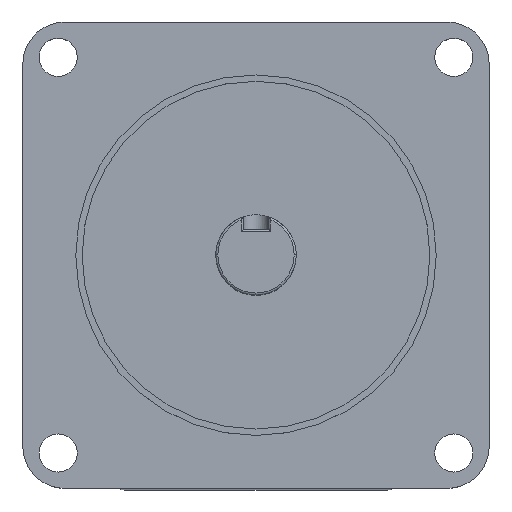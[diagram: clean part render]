
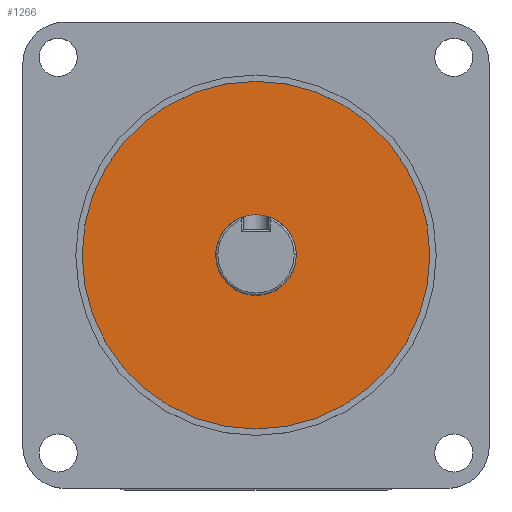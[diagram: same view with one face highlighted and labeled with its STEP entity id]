
A CAD part, top view. The second image highlights one B-rep face of the part: STEP entity #1266.
In plain terms, the highlighted planar face has unit normal (0, 0, 1).
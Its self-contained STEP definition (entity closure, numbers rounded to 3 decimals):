
#39 = FACE_BOUND ( 'NONE', #547, .T. ) ;
#106 = EDGE_LOOP ( 'NONE', ( #2470, #1857 ) ) ;
#230 = CARTESIAN_POINT ( 'NONE',  ( 0., 0., 0. ) ) ;
#297 = CARTESIAN_POINT ( 'NONE',  ( 41., 0., 0. ) ) ;
#326 = CARTESIAN_POINT ( 'NONE',  ( 0., 0., 0. ) ) ;
#345 = PLANE ( 'NONE',  #1002 ) ;
#440 = DIRECTION ( 'NONE',  ( -1., 0., 0. ) ) ;
#529 = DIRECTION ( 'NONE',  ( -1., 0., 0. ) ) ;
#547 = EDGE_LOOP ( 'NONE', ( #600, #771 ) ) ;
#549 = AXIS2_PLACEMENT_3D ( 'NONE', #1898, #678, #2107 ) ;
#562 = VERTEX_POINT ( 'NONE', #2495 ) ;
#600 = ORIENTED_EDGE ( 'NONE', *, *, #1809, .F. ) ;
#641 = CIRCLE ( 'NONE', #549, 41. ) ;
#678 = DIRECTION ( 'NONE',  ( 0., 0., 1. ) ) ;
#771 = ORIENTED_EDGE ( 'NONE', *, *, #2336, .F. ) ;
#854 = CIRCLE ( 'NONE', #1065, 9.5 ) ;
#939 = CARTESIAN_POINT ( 'NONE',  ( 0., 0., 0. ) ) ;
#946 = DIRECTION ( 'NONE',  ( 0., 0., -1. ) ) ;
#984 = CIRCLE ( 'NONE', #2011, 9.5 ) ;
#1002 = AXIS2_PLACEMENT_3D ( 'NONE', #1755, #946, #2388 ) ;
#1065 = AXIS2_PLACEMENT_3D ( 'NONE', #326, #1732, #529 ) ;
#1134 = DIRECTION ( 'NONE',  ( 1., 0., 0. ) ) ;
#1200 = CIRCLE ( 'NONE', #2182, 41. ) ;
#1266 = ADVANCED_FACE ( 'NONE', ( #2219, #39 ), #345, .F. ) ;
#1544 = VERTEX_POINT ( 'NONE', #2375 ) ;
#1598 = VERTEX_POINT ( 'NONE', #2389 ) ;
#1633 = DIRECTION ( 'NONE',  ( 0., 0., 1. ) ) ;
#1732 = DIRECTION ( 'NONE',  ( 0., 0., 1. ) ) ;
#1755 = CARTESIAN_POINT ( 'NONE',  ( -45., -45., 0. ) ) ;
#1809 = EDGE_CURVE ( 'NONE', #562, #1598, #984, .T. ) ;
#1857 = ORIENTED_EDGE ( 'NONE', *, *, #2237, .T. ) ;
#1898 = CARTESIAN_POINT ( 'NONE',  ( 0., 0., 0. ) ) ;
#2011 = AXIS2_PLACEMENT_3D ( 'NONE', #230, #1633, #440 ) ;
#2107 = DIRECTION ( 'NONE',  ( 1., 0., 0. ) ) ;
#2182 = AXIS2_PLACEMENT_3D ( 'NONE', #939, #2379, #1134 ) ;
#2219 = FACE_OUTER_BOUND ( 'NONE', #106, .T. ) ;
#2237 = EDGE_CURVE ( 'NONE', #2305, #1544, #641, .T. ) ;
#2305 = VERTEX_POINT ( 'NONE', #297 ) ;
#2336 = EDGE_CURVE ( 'NONE', #1598, #562, #854, .T. ) ;
#2375 = CARTESIAN_POINT ( 'NONE',  ( -41., 0., 0. ) ) ;
#2379 = DIRECTION ( 'NONE',  ( 0., 0., 1. ) ) ;
#2388 = DIRECTION ( 'NONE',  ( -1., 0., 0. ) ) ;
#2389 = CARTESIAN_POINT ( 'NONE',  ( 9.5, 0., 0. ) ) ;
#2414 = EDGE_CURVE ( 'NONE', #1544, #2305, #1200, .T. ) ;
#2470 = ORIENTED_EDGE ( 'NONE', *, *, #2414, .T. ) ;
#2495 = CARTESIAN_POINT ( 'NONE',  ( -9.5, 0., 0. ) ) ;
